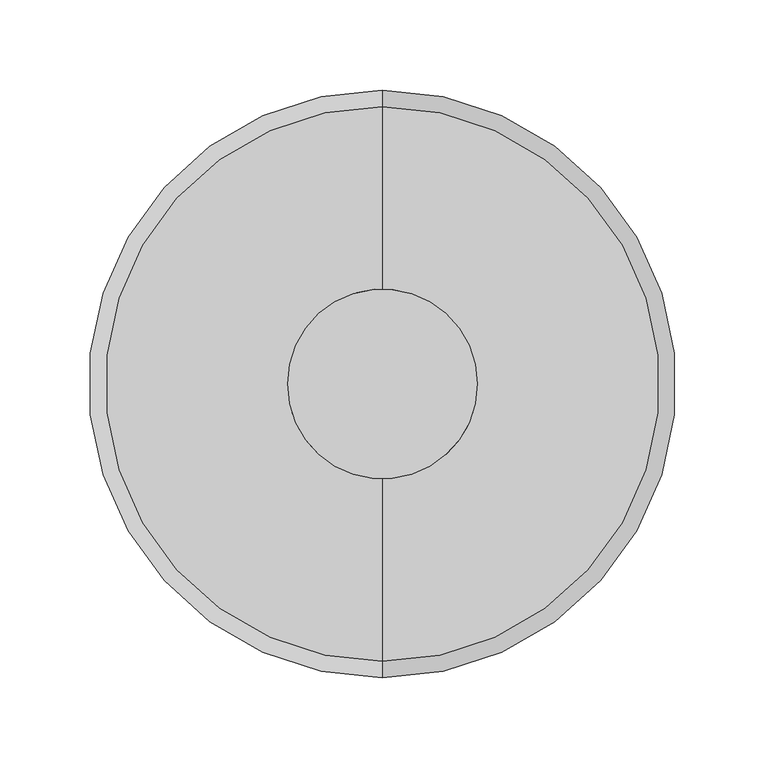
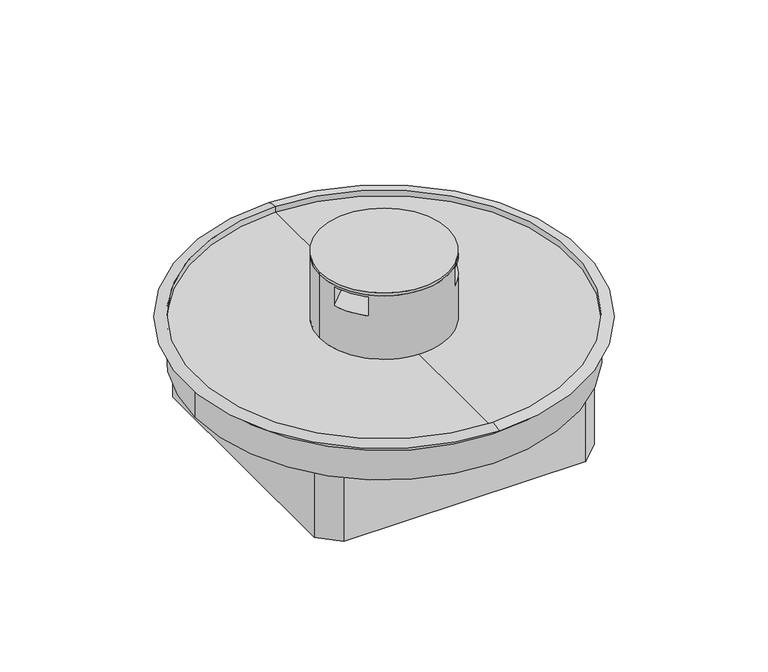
"""IFC4 building model written with IfcOpenShell, lengths in millimetres: proxy geometry, Electrical_Installation_Hager_VE-EE_VANR_3mm_Service-unit-for-wet-cleaned-floors-with-tube-cable-outlete-made-of-polyamide : Service unit R12 w set HB wet PA-T Al 3mm."""

from ifc_helpers import new_model, si_unit, point, frame, origin, origin_with_axes, origin_2d, place, context, project, spatial, polyline, circle_curve, ellipse_curve, trimmed, segment, composite_curve, outline, extrude, source, transform, mapped, element, save
from ifc_brep_helpers import plane_surface, cylinder_surface, revolved_surface, advanced_brep


def electrical_fixtures_1398e5e1(model_context):
    return source(origin(), model_context, "Body", "SolidModel", [
        extrude(outline(composite_curve([segment(trimmed(circle_curve(origin_2d(), 52.5), [point((-52.5, 0.0))], [point((52.5, 0.0))], False, "CARTESIAN"), True, "CONTINUOUS"), segment(trimmed(circle_curve(origin_2d(), 52.5), [point((52.5, 0.0))], [point((-52.5, 0.0))], False, "CARTESIAN"), True, "CONTINUOUS")], self_intersect=False)), frame((0.0, 0.0, 54.7091315), z_axis=(0.0, 0.0, 1.0), x_axis=(1.0, 0.0, 0.0)), (0.0, 0.0, 1.0), 2.3895787),
        advanced_brep(
        [(-52.5, 0.0, 54.7091315), (52.5, 0.0, 54.7091315), (-52.5, 0.0, 0.0), (52.5, 0.0, 0.0), (35.3959341, -38.7734168, 53.1148344), (50.0859499, -15.7368239, 53.1148344), (50.0859499, -15.7368239, 36.6755891), (35.3959341, -38.7734168, 36.6755891), (-49.9842912, -16.0567941, 53.1148344), (-35.0171896, -39.115808, 53.1148344), (-35.0171896, -39.115808, 36.6755891), (-49.9842912, -16.0567941, 36.6755891), (15.8183847, 50.0602507, 53.1148344), (-14.1816153, 50.5483114, 53.1148344), (-14.1816153, 50.5483114, 36.6755891), (15.8183847, 50.0602507, 36.6755891), (15.8183847, 18.5307412, 53.1148344), (1.8189762, -2.2796422, 53.1148344), (-14.1816153, 19.7458818, 53.1148344), (-14.1816153, 19.7458818, 36.6755891), (1.8189762, -2.2796422, 36.6755891), (15.8183847, 18.5307412, 36.6755891)],
        [
            (0, 1, circle_curve(frame((0.0, 0.0, 54.7091315), z_axis=(0.0, 0.0, 1.0), x_axis=(1.0, 0.0, 0.0)), 52.5)),
            (1, 0, circle_curve(frame((0.0, 0.0, 54.7091315), z_axis=(0.0, 0.0, 1.0), x_axis=(1.0, 0.0, 0.0)), 52.5)),
            (2, 3, circle_curve(frame((0.0, 0.0, 0.0), z_axis=(0.0, 0.0, -1.0), x_axis=(1.0, 0.0, 0.0)), 52.5)),
            (3, 2, circle_curve(frame((0.0, 0.0, 0.0), z_axis=(0.0, 0.0, -1.0), x_axis=(1.0, 0.0, 0.0)), 52.5)),
            (0, 2),
            (3, 1),
            (4, 5, circle_curve(frame((0.0, 0.0, 53.1148344), z_axis=(0.0, 0.0, 1.0), x_axis=(1.0, 0.0, 0.0)), 52.5)),
            (5, 6),
            (6, 7, circle_curve(frame((0.0, 0.0, 36.6755891), z_axis=(0.0, 0.0, -1.0), x_axis=(1.0, 0.0, 0.0)), 52.5)),
            (7, 4),
            (8, 9, circle_curve(frame((0.0, 0.0, 53.1148344), z_axis=(0.0, 0.0, 1.0), x_axis=(1.0, 0.0, 0.0)), 52.5)),
            (9, 10),
            (10, 11, circle_curve(frame((0.0, 0.0, 36.6755891), z_axis=(0.0, 0.0, -1.0), x_axis=(1.0, 0.0, 0.0)), 52.5)),
            (11, 8),
            (12, 13, circle_curve(frame((0.0, 0.0, 53.1148344), z_axis=(0.0, 0.0, 1.0), x_axis=(1.0, 0.0, 0.0)), 52.5)),
            (13, 14),
            (14, 15, circle_curve(frame((0.0, 0.0, 36.6755891), z_axis=(0.0, 0.0, -1.0), x_axis=(1.0, 0.0, 0.0)), 52.5)),
            (15, 12),
            (12, 16),
            (16, 5),
            (4, 17),
            (17, 9),
            (8, 18),
            (18, 13),
            (14, 19),
            (19, 11),
            (10, 20),
            (20, 7),
            (6, 21),
            (21, 15),
            (18, 19),
            (17, 20),
            (16, 21),
        ],
        [
            plane_surface(frame((52.5, 0.0, 54.7091315), z_axis=(0.0, 0.0, 1.0), x_axis=(0.0, 1.0, 0.0))),
            plane_surface(frame((52.5, 0.0, 0.0), z_axis=(0.0, 0.0, -1.0), x_axis=(0.0, -1.0, 0.0))),
            cylinder_surface(origin_with_axes(), 52.5),
            plane_surface(frame((-9.1816153, 67.2807412, 53.1148344), z_axis=(0.0, 0.0, -1.0), x_axis=(-1.0, 0.0, 0.0))),
            plane_surface(frame((-9.1816153, 67.2807412, 36.6755891), z_axis=(0.0, 0.0, 1.0), x_axis=(1.0, 0.0, 0.0))),
            plane_surface(frame((-14.1816153, 67.2807412, 53.1148344), z_axis=(1.0, 0.0, 0.0), x_axis=(0.0, 0.0, -1.0))),
            plane_surface(frame((-14.1816153, 19.7458818, 53.1148344), z_axis=(0.707106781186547, -0.707106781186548, 0.0), x_axis=(0.0, 0.0, -1.0))),
            plane_surface(frame((-39.2097557, -43.3083741, 53.1148344), z_axis=(-0.7071067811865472, 0.7071067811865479, 0.0), x_axis=(0.0, 0.0, -1.0))),
            plane_surface(frame((1.8189762, -2.2796422, 53.1148344), z_axis=(0.7359040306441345, 0.6770858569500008, 0.0), x_axis=(0.0, 0.0, -1.0))),
            plane_surface(frame((55.1804847, -20.8313587, 53.1148344), z_axis=(-0.7071067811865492, -0.7071067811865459, 0.0), x_axis=(0.0, 0.0, -1.0))),
            plane_surface(frame((15.8183847, 18.5307412, 53.1148344), z_axis=(-1.0, 0.0, 0.0), x_axis=(0.0, 0.0, -1.0))),
        ],
        [
            (0, [[1, 2]]),
            (1, [[3, 4]]),
            (2, [[-1, 5, -4, 6], [7, 8, 9, 10], [11, 12, 13, 14]]),
            (2, [[-2, -6, -3, -5], [15, 16, 17, 18]]),
            (3, [[19, 20, -7, 21, 22, -11, 23, 24, -15]]),
            (4, [[25, 26, -13, 27, 28, -9, 29, 30, -17]]),
            (5, [[31, -25, -16, -24]]),
            (6, [[-31, -23, -14, -26]]),
            (7, [[32, -27, -12, -22]]),
            (8, [[-32, -21, -10, -28]]),
            (9, [[33, -29, -8, -20]]),
            (10, [[-33, -19, -18, -30]]),
        ],
    ),
        extrude(outline(composite_curve([segment(trimmed(circle_curve(origin_2d(), 52.5), [point((52.5, 0.0))], [point((-52.5, 0.0))], False, "CARTESIAN"), True, "CONTINUOUS"), segment(trimmed(circle_curve(origin_2d(), 52.5), [point((-52.5, 0.0))], [point((52.5, 0.0))], False, "CARTESIAN"), True, "CONTINUOUS")], self_intersect=False)), origin_with_axes(), (0.0, 0.0, 1.0), 2.0),
        advanced_brep(
        [(-154.0, 0.0, -33.0), (154.0, 0.0, -33.0), (154.0, 0.0, -7.8389514), (0.0, -154.0, -7.8389514), (-154.0, 0.0, -7.8389514), (0.0, 154.0, -7.8389514), (-114.5, -96.120731, -33.0), (-114.5, 96.120731, -33.0), (-114.5, 96.120731, -7.8389514), (-114.5, -96.120731, -7.8389514), (-96.120731, 114.5, -33.0), (-96.120731, 114.5, -7.8389514), (96.120731, 114.5, -33.0), (96.120731, 114.5, -7.8389514), (0.0, 114.5, -7.8389514), (114.5, 96.120731, -33.0), (114.5, 96.120731, -7.8389514), (114.5, -96.120731, -33.0), (114.5, -96.120731, -7.8389514), (96.120731, -114.5, -33.0), (96.120731, -114.5, -7.8389514), (-96.120731, -114.5, -33.0), (-96.120731, -114.5, -7.8389514), (0.0, -114.5, -7.8389514), (0.0, -153.5042598, -3.0), (0.0, 153.5042598, -3.0), (0.0, 153.5042598, 1.9903608), (0.0, -153.5042598, 1.9903608), (0.0, 0.0, -3.0), (0.0, 162.5, 0.0), (0.0, -162.5, 0.0), (0.0, 0.0, -7.8389514), (0.0, 154.0, 0.0), (0.0, -154.0, 0.0)],
        [
            (0, 1, circle_curve(frame((0.0, 0.0, -33.0), z_axis=(0.0, 0.0, 1.0), x_axis=(1.0, 0.0, 0.0)), 154.0)),
            (1, 2),
            (2, 3, circle_curve(frame((0.0, 0.0, -7.8389514), z_axis=(0.0, 0.0, -1.0), x_axis=(1.0, 0.0, 0.0)), 154.0)),
            (3, 4, circle_curve(frame((0.0, 0.0, -7.8389514), z_axis=(0.0, 0.0, -1.0), x_axis=(1.0, 0.0, 0.0)), 154.0)),
            (4, 0),
            (1, 0, circle_curve(frame((0.0, 0.0, -33.0), z_axis=(0.0, 0.0, 1.0), x_axis=(1.0, 0.0, 0.0)), 154.0)),
            (4, 5, circle_curve(frame((0.0, 0.0, -7.8389514), z_axis=(0.0, 0.0, -1.0), x_axis=(1.0, 0.0, 0.0)), 154.0)),
            (5, 2, circle_curve(frame((0.0, 0.0, -7.8389514), z_axis=(0.0, 0.0, -1.0), x_axis=(1.0, 0.0, 0.0)), 154.0)),
            (6, 7),
            (7, 8),
            (8, 9),
            (9, 6),
            (7, 10, circle_curve(frame((0.0, 0.0, -33.0), z_axis=(0.0, 0.0, -1.0), x_axis=(1.0, 0.0, 0.0)), 149.4973074)),
            (10, 11),
            (11, 8, circle_curve(frame((0.0, 0.0, -7.8389514), z_axis=(0.0, 0.0, 1.0), x_axis=(1.0, 0.0, 0.0)), 149.4973074)),
            (10, 12),
            (12, 13),
            (13, 14),
            (14, 11),
            (12, 15, circle_curve(frame((0.0, 0.0, -33.0), z_axis=(0.0, 0.0, -1.0), x_axis=(1.0, 0.0, 0.0)), 149.4973074)),
            (15, 16),
            (16, 13, circle_curve(frame((0.0, 0.0, -7.8389514), z_axis=(0.0, 0.0, 1.0), x_axis=(1.0, 0.0, 0.0)), 149.4973074)),
            (15, 17),
            (17, 18),
            (18, 16),
            (17, 19, circle_curve(frame((0.0, 0.0, -33.0), z_axis=(0.0, 0.0, -1.0), x_axis=(1.0, 0.0, 0.0)), 149.4973074)),
            (19, 20),
            (20, 18, circle_curve(frame((0.0, 0.0, -7.8389514), z_axis=(0.0, 0.0, 1.0), x_axis=(1.0, 0.0, 0.0)), 149.4973074)),
            (19, 21),
            (21, 22),
            (22, 23),
            (23, 20),
            (21, 6, circle_curve(frame((0.0, 0.0, -33.0), z_axis=(0.0, 0.0, -1.0), x_axis=(1.0, 0.0, 0.0)), 149.4973074)),
            (9, 22, circle_curve(frame((0.0, 0.0, -7.8389514), z_axis=(0.0, 0.0, 1.0), x_axis=(1.0, 0.0, 0.0)), 149.4973074)),
            (24, 25, circle_curve(frame((0.0, 0.0, -3.0), z_axis=(0.0, 0.0, -1.0), x_axis=(0.0, 1.0, 0.0)), 153.5042598)),
            (25, 26),
            (26, 27, circle_curve(frame((0.0, 0.0, 1.9903608), z_axis=(0.0, 0.0, 1.0), x_axis=(0.0, 1.0, 0.0)), 153.5042598)),
            (27, 24),
            (25, 24, circle_curve(frame((0.0, 0.0, -3.0), z_axis=(0.0, 0.0, -1.0), x_axis=(0.0, 1.0, 0.0)), 153.5042598)),
            (27, 26, circle_curve(frame((0.0, 0.0, 1.9903608), z_axis=(0.0, 0.0, 1.0), x_axis=(0.0, 1.0, 0.0)), 153.5042598)),
            (24, 28),
            (28, 25),
            (26, 29, circle_curve(frame((0.0, 153.3087254, -20.2173795), z_axis=(-1.0, 0.0, 0.0), x_axis=(0.0, 1.0, 0.0)), 22.2086011)),
            (29, 30, circle_curve(frame((0.0, 0.0, 0.0), z_axis=(0.0, 0.0, 1.0), x_axis=(0.0, 1.0, 0.0)), 162.5)),
            (30, 27, circle_curve(frame((0.0, -153.3087254, -20.2173795), z_axis=(-1.0, 0.0, 0.0), x_axis=(0.0, -1.0, 0.0)), 22.2086011)),
            (30, 29, circle_curve(frame((0.0, 0.0, 0.0), z_axis=(0.0, 0.0, 1.0), x_axis=(0.0, 1.0, 0.0)), 162.5)),
            (14, 31),
            (31, 23),
            (29, 32),
            (32, 33, circle_curve(frame((0.0, 0.0, 0.0), z_axis=(0.0, 0.0, 1.0), x_axis=(0.0, 1.0, 0.0)), 154.0)),
            (33, 30),
            (33, 32, circle_curve(frame((0.0, 0.0, 0.0), z_axis=(0.0, 0.0, 1.0), x_axis=(0.0, 1.0, 0.0)), 154.0)),
            (32, 5),
            (3, 33),
        ],
        [
            cylinder_surface(frame((0.0, 0.0, -33.0), z_axis=(0.0, 0.0, 1.0), x_axis=(1.0, 0.0, 0.0)), 154.0),
            plane_surface(frame((-114.5, -96.120731, -7.8389514), z_axis=(1.0, 0.0, 0.0), x_axis=(0.0, 0.0, -1.0))),
            revolved_surface(polyline([(149.4973074, 0.0, -33.0), (149.4973074, 0.0, -7.8389514)]), (0.0, 0.0, 0.0), (0.0, 0.0, -1.0)),
            plane_surface(frame((-96.120731, 114.5, -7.8389514), z_axis=(0.0, -1.0, 0.0), x_axis=(0.0, 0.0, -1.0))),
            plane_surface(frame((114.5, 96.120731, -7.8389514), z_axis=(-1.0, 0.0, 0.0), x_axis=(0.0, 0.0, -1.0))),
            plane_surface(frame((96.120731, -114.5, -7.8389514), z_axis=(0.0, 1.0, 0.0), x_axis=(0.0, 0.0, -1.0))),
            plane_surface(frame((154.0, 0.0, -33.0), z_axis=(0.0, 0.0, -1.0), x_axis=(0.0, -1.0, 0.0))),
            revolved_surface(polyline([(0.0, 153.5042598, 1.9903607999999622), (0.0, 153.5042598, -3.0)]), (0.0, 0.0, 2341.8067943), (0.0, 0.0, 1.0)),
            plane_surface(frame((0.0, 0.0, -3.0), z_axis=(0.0, 0.0, 1.0), x_axis=(0.0, 1.0, 0.0))),
            revolved_surface(trimmed(ellipse_curve(frame((0.0, 153.3087254, -20.2173795), z_axis=(1.0, 0.0, 0.0), x_axis=(0.0, 1.0, 0.0)), 22.2086011, 22.2086011), [point((0.0, 162.5, 0.0))], [point((0.0, 153.5042598, 1.9903608))], True, "CARTESIAN"), (0.0, 0.0, 2341.8067943), (0.0, 0.0, 1.0)),
            plane_surface(frame((0.0, 0.0, -7.8389514), z_axis=(0.0, 0.0, -1.0), x_axis=(0.0, 1.0, 0.0))),
            plane_surface(frame((0.0, 0.0, 0.0), z_axis=(0.0, 0.0, -1.0), x_axis=(0.0, 1.0, 0.0))),
            cylinder_surface(frame((0.0, 0.0, 2341.8067943), z_axis=(0.0, 0.0, 1.0), x_axis=(0.0, 1.0, 0.0)), 154.0),
        ],
        [
            (0, [[1, 2, 3, 4, 5]]),
            (0, [[6, -5, 7, 8, -2]]),
            (1, [[9, 10, 11, 12]]),
            (2, [[13, 14, 15, -10]]),
            (3, [[16, 17, 18, 19, -14]]),
            (2, [[20, 21, 22, -17]]),
            (4, [[23, 24, 25, -21]]),
            (2, [[26, 27, 28, -24]]),
            (5, [[29, 30, 31, 32, -27]]),
            (2, [[33, -12, 34, -30]]),
            (6, [[-6, -1], [-33, -29, -26, -23, -20, -16, -13, -9]]),
            (7, [[35, 36, 37, 38]]),
            (7, [[-36, 39, -38, 40]]),
            (8, [[-35, 41, 42]]),
            (8, [[-39, -42, -41]]),
            (9, [[-37, 43, 44, 45]]),
            (9, [[-40, -45, 46, -43]]),
            (10, [[47, 48, -31, -34, -11, -15, -19]]),
            (10, [[-47, -18, -22, -25, -28, -32, -48]]),
            (11, [[-44, 49, 50, 51]]),
            (11, [[-46, -51, 52, -49]]),
            (12, [[-50, 53, -7, -4, 54]]),
            (12, [[-53, -52, -54, -3, -8]]),
        ],
    ),
        extrude(outline(polyline([(-99.0882065, 114.5), (99.3942383, 114.5), (114.5, 99.0262113), (114.5, -98.7169494), (98.5882125, -114.5), (-98.7359175, -114.5), (-114.5, -99.7976183), (-114.5, 100.165624), (-99.0882065, 114.5)]), holes=[polyline([(111.0181904, 98.7695063), (98.7659338, 111.5), (-98.7903505, 111.5), (-111.5, 98.7903505), (-111.5, -98.7903505), (-98.7903505, -111.5), (98.2048826, -111.5), (111.0181904, -96.4986902), (111.0181904, 98.7695063)])]), frame((0.0, 0.0, -90.0), z_axis=(0.0, 0.0, 1.0), x_axis=(1.0, 0.0, 0.0)), (0.0, 0.0, 1.0), 57.0),
    ])


if __name__ == "__main__":
    model = new_model("IFC4")
    model_context = context("Model", 3, world=origin())
    ifc_project = project(units=[si_unit("LENGTHUNIT", "METRE", prefix="MILLI")], contexts=[model_context])
    site = spatial("IfcSite", under=ifc_project)
    building = spatial("IfcBuilding", under=site)
    placement = place(None, origin())
    electrical_fixtures_shape = electrical_fixtures_1398e5e1(model_context)
    element("IfcBuildingElementProxy", 1, Name="Electrical_Installation_Hager_VE-EE_VANR_3mm_Service-unit-for-wet-cleaned-floors-with-tube-cable-outlete-made-of-polyamide : Service unit R12 w set HB wet PA-T Al 3mm", ObjectType="Electrical_Installation_Hager_VE-EE_VANR_3mm_Service-unit-for-wet-cleaned-floors-with-tube-cable-outlete-made-of-polyamide : Service unit R12 w set HB wet PA-T Al 3mm", at=placement, inside=building, context=model_context, shape_type="MappedRepresentation", body=[
        mapped(electrical_fixtures_shape, transform((0.0, 0.0, 0.0), x_axis=(1.0, 0.0, 0.0), y_axis=(0.0, 1.0, 0.0), z_axis=(0.0, 0.0, 1.0))),
    ])
    save(model, "model.ifc")
